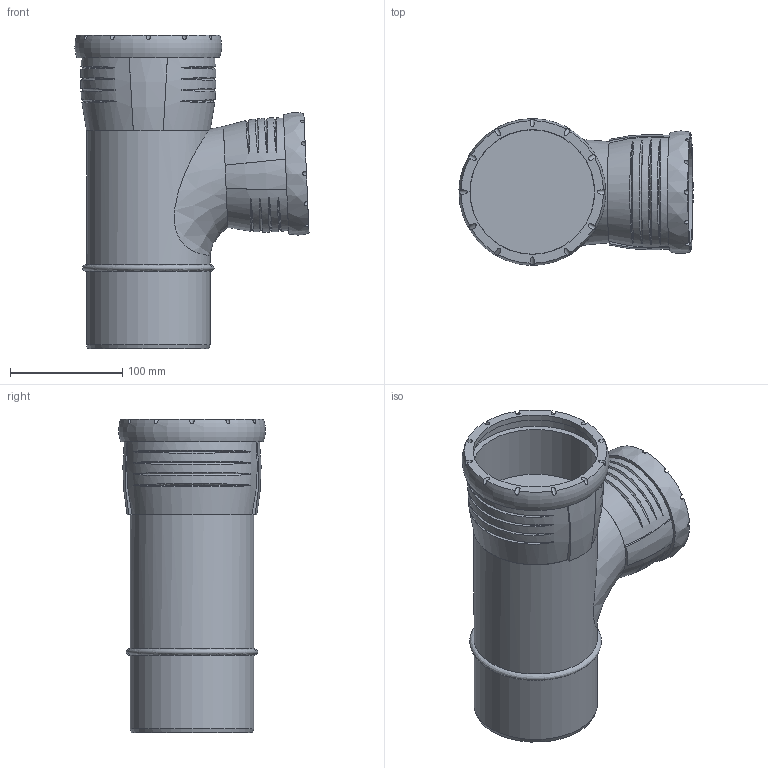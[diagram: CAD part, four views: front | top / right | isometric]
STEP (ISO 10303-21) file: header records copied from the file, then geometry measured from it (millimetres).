
FILE_DESCRIPTION(/* description */ (''),/* implementation_level */ '2;1');
FILE_NAME(/* name */ 'H:\Geberit-Teile\Export\Abzweig PP\stp\393552.stp',/* time_stamp */ '2017-02-13T13:23:08+01:00',/* author */ ('seihe2'),/* organization */ (''),/* preprocessor_version */ 'ST-DEVELOPER v15.2',/* originating_system */ 'Autodesk Inventor 2014',/* authorisation */ '');
FILE_SCHEMA (('CONFIG_CONTROL_DESIGN','AUTOMOTIVE_DESIGN { 1 0 10303 214 3 1 1 }'));
Length unit declared in the file: millimetre
Products named in the file (1): 393552
Bounding box: 208.86 x 130.89 x 279.9 mm (x, y, z)
Volume: 2113001.8 mm3; surface area: 274637.3 mm2
Topology: 5 solids, 5 shells, 104 faces, 242 edges, 172 vertices
Faces by surface type: bspline 47, cylinder 36, plane 19, cone 1, torus 1
Full cylindrical faces by diameter (mm): 74.497 x1, 90 x1, 90.9 x1, 91.2 x1, 100.2 x1, 101.2 x1, 110.2 x3, 111 x1, 111.3 x1, 121.5 x1
Entity records: 7697 total; most frequent: CARTESIAN_POINT 5565, ORIENTED_EDGE 448, DIRECTION 310, EDGE_CURVE 223, VERTEX_POINT 167, AXIS2_PLACEMENT_3D 155, EDGE_LOOP 146, B_SPLINE_CURVE_WITH_KNOTS 125
